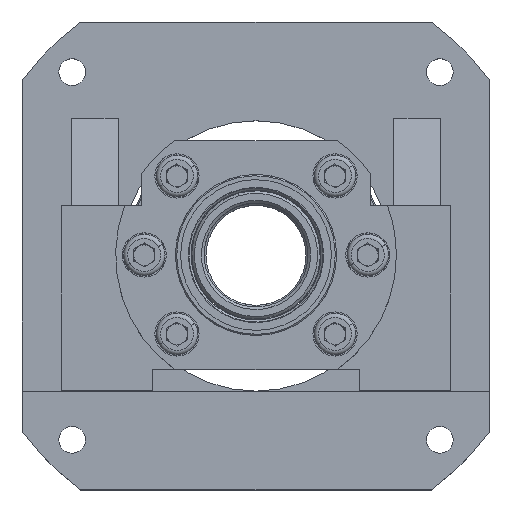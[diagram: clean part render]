
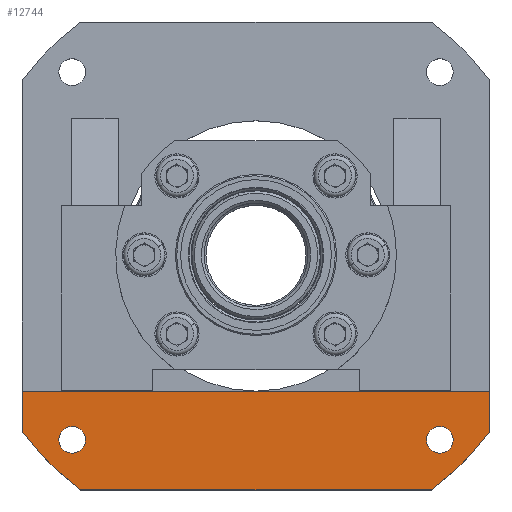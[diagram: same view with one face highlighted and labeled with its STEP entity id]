
A CAD part, top view. The second image highlights one B-rep face of the part: STEP entity #12744.
In plain terms, the highlighted planar face has unit normal (0, 0, 1).
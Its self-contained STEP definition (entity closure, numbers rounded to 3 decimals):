
#160 = DIRECTION ( 'NONE',  ( 0., 0., 1. ) ) ;
#776 = ORIENTED_EDGE ( 'NONE', *, *, #18640, .F. ) ;
#1193 = ORIENTED_EDGE ( 'NONE', *, *, #20778, .T. ) ;
#1268 = VERTEX_POINT ( 'NONE', #7747 ) ;
#1413 = DIRECTION ( 'NONE',  ( 1., 0., 0. ) ) ;
#1511 = VERTEX_POINT ( 'NONE', #14914 ) ;
#1585 = CARTESIAN_POINT ( 'NONE',  ( -70.711, -70.711, 21. ) ) ;
#1780 = VERTEX_POINT ( 'NONE', #15352 ) ;
#2019 = CARTESIAN_POINT ( 'NONE',  ( -90., 90., 21. ) ) ;
#2840 = EDGE_CURVE ( 'NONE', #23515, #27535, #10964, .T. ) ;
#2872 = DIRECTION ( 'NONE',  ( 1., 0., 0. ) ) ;
#3645 = CIRCLE ( 'NONE', #15464, 5.15 ) ;
#3664 = CARTESIAN_POINT ( 'NONE',  ( -91.047, -52.01, 21. ) ) ;
#3709 = DIRECTION ( 'NONE',  ( 1., 0., 0. ) ) ;
#4087 = VERTEX_POINT ( 'NONE', #21206 ) ;
#4648 = CARTESIAN_POINT ( 'NONE',  ( 67.5, -90., 21. ) ) ;
#4736 = DIRECTION ( 'NONE',  ( 0., 1., 0. ) ) ;
#4934 = LINE ( 'NONE', #19765, #27685 ) ;
#5015 = ORIENTED_EDGE ( 'NONE', *, *, #15531, .T. ) ;
#5020 = AXIS2_PLACEMENT_3D ( 'NONE', #27003, #14223, #1413 ) ;
#5147 = VERTEX_POINT ( 'NONE', #10131 ) ;
#5244 = VECTOR ( 'NONE', #14830, 1000. ) ;
#6014 = ORIENTED_EDGE ( 'NONE', *, *, #21037, .F. ) ;
#6857 = ORIENTED_EDGE ( 'NONE', *, *, #13227, .F. ) ;
#6898 = CARTESIAN_POINT ( 'NONE',  ( 90., -67.5, 21. ) ) ;
#6931 = EDGE_CURVE ( 'NONE', #1780, #1268, #27317, .T. ) ;
#7747 = CARTESIAN_POINT ( 'NONE',  ( -90., -67.5, 21. ) ) ;
#8013 = CARTESIAN_POINT ( 'NONE',  ( 0., 0., 21. ) ) ;
#8469 = EDGE_LOOP ( 'NONE', ( #776, #11500, #20401, #1193, #17170, #5015 ) ) ;
#8770 = CIRCLE ( 'NONE', #9636, 5.15 ) ;
#9337 = CARTESIAN_POINT ( 'NONE',  ( -67.5, -90., 21. ) ) ;
#9636 = AXIS2_PLACEMENT_3D ( 'NONE', #1585, #16566, #3709 ) ;
#10131 = CARTESIAN_POINT ( 'NONE',  ( -75.861, -70.711, 21. ) ) ;
#10171 = DIRECTION ( 'NONE',  ( 1., 0., 0. ) ) ;
#10521 = EDGE_LOOP ( 'NONE', ( #19915, #17572 ) ) ;
#10964 = CIRCLE ( 'NONE', #24712, 112.5 ) ;
#11063 = VERTEX_POINT ( 'NONE', #17223 ) ;
#11500 = ORIENTED_EDGE ( 'NONE', *, *, #6931, .T. ) ;
#12570 = CARTESIAN_POINT ( 'NONE',  ( 0., 0., 21. ) ) ;
#12672 = DIRECTION ( 'NONE',  ( 0., 0., 1. ) ) ;
#12744 = ADVANCED_FACE ( 'NONE', ( #25414, #19777, #20450 ), #19659, .T. ) ;
#12951 = CARTESIAN_POINT ( 'NONE',  ( 70.711, -70.711, 21. ) ) ;
#13017 = CIRCLE ( 'NONE', #24058, 5.15 ) ;
#13227 = EDGE_CURVE ( 'NONE', #1511, #5147, #3645, .T. ) ;
#13433 = EDGE_CURVE ( 'NONE', #4087, #11063, #13017, .T. ) ;
#13523 = CARTESIAN_POINT ( 'NONE',  ( -104.626, -112., 21. ) ) ;
#13887 = VERTEX_POINT ( 'NONE', #25040 ) ;
#14223 = DIRECTION ( 'NONE',  ( 0., 0., 1. ) ) ;
#14741 = DIRECTION ( 'NONE',  ( 1., 0., 0. ) ) ;
#14830 = DIRECTION ( 'NONE',  ( 0., -1., 0. ) ) ;
#14914 = CARTESIAN_POINT ( 'NONE',  ( -65.561, -70.711, 21. ) ) ;
#15114 = DIRECTION ( 'NONE',  ( 1., 0., 0. ) ) ;
#15352 = CARTESIAN_POINT ( 'NONE',  ( -90., -52.01, 21. ) ) ;
#15464 = AXIS2_PLACEMENT_3D ( 'NONE', #25489, #12672, #27627 ) ;
#15531 = EDGE_CURVE ( 'NONE', #27535, #13887, #4934, .T. ) ;
#15687 = DIRECTION ( 'NONE',  ( 0., 0., 1. ) ) ;
#16534 = VECTOR ( 'NONE', #22542, 1000. ) ;
#16566 = DIRECTION ( 'NONE',  ( 0., 0., 1. ) ) ;
#16927 = AXIS2_PLACEMENT_3D ( 'NONE', #12570, #27520, #14741 ) ;
#17170 = ORIENTED_EDGE ( 'NONE', *, *, #2840, .T. ) ;
#17223 = CARTESIAN_POINT ( 'NONE',  ( 65.561, -70.711, 21. ) ) ;
#17572 = ORIENTED_EDGE ( 'NONE', *, *, #13433, .F. ) ;
#18525 = EDGE_LOOP ( 'NONE', ( #6014, #6857 ) ) ;
#18640 = EDGE_CURVE ( 'NONE', #1780, #13887, #22311, .T. ) ;
#18698 = DIRECTION ( 'NONE',  ( 1., 0., 0. ) ) ;
#19485 = CIRCLE ( 'NONE', #5020, 5.15 ) ;
#19659 = PLANE ( 'NONE',  #21749 ) ;
#19765 = CARTESIAN_POINT ( 'NONE',  ( 90., 90., 21. ) ) ;
#19777 = FACE_BOUND ( 'NONE', #10521, .T. ) ;
#19915 = ORIENTED_EDGE ( 'NONE', *, *, #24544, .F. ) ;
#20401 = ORIENTED_EDGE ( 'NONE', *, *, #25947, .T. ) ;
#20422 = CARTESIAN_POINT ( 'NONE',  ( -90., -90., 21. ) ) ;
#20450 = FACE_BOUND ( 'NONE', #18525, .T. ) ;
#20778 = EDGE_CURVE ( 'NONE', #22572, #23515, #23558, .T. ) ;
#21037 = EDGE_CURVE ( 'NONE', #5147, #1511, #8770, .T. ) ;
#21206 = CARTESIAN_POINT ( 'NONE',  ( 75.861, -70.711, 21. ) ) ;
#21749 = AXIS2_PLACEMENT_3D ( 'NONE', #13523, #15687, #2872 ) ;
#22311 = LINE ( 'NONE', #3664, #22970 ) ;
#22423 = CIRCLE ( 'NONE', #16927, 112.5 ) ;
#22542 = DIRECTION ( 'NONE',  ( 1., 0., 0. ) ) ;
#22572 = VERTEX_POINT ( 'NONE', #9337 ) ;
#22970 = VECTOR ( 'NONE', #18698, 1000. ) ;
#23019 = DIRECTION ( 'NONE',  ( 0., 0., 1. ) ) ;
#23515 = VERTEX_POINT ( 'NONE', #4648 ) ;
#23558 = LINE ( 'NONE', #20422, #16534 ) ;
#24058 = AXIS2_PLACEMENT_3D ( 'NONE', #12951, #160, #15114 ) ;
#24544 = EDGE_CURVE ( 'NONE', #11063, #4087, #19485, .T. ) ;
#24712 = AXIS2_PLACEMENT_3D ( 'NONE', #8013, #23019, #10171 ) ;
#25040 = CARTESIAN_POINT ( 'NONE',  ( 90., -52.01, 21. ) ) ;
#25414 = FACE_OUTER_BOUND ( 'NONE', #8469, .T. ) ;
#25489 = CARTESIAN_POINT ( 'NONE',  ( -70.711, -70.711, 21. ) ) ;
#25947 = EDGE_CURVE ( 'NONE', #1268, #22572, #22423, .T. ) ;
#27003 = CARTESIAN_POINT ( 'NONE',  ( 70.711, -70.711, 21. ) ) ;
#27317 = LINE ( 'NONE', #2019, #5244 ) ;
#27520 = DIRECTION ( 'NONE',  ( 0., 0., 1. ) ) ;
#27535 = VERTEX_POINT ( 'NONE', #6898 ) ;
#27627 = DIRECTION ( 'NONE',  ( 1., 0., 0. ) ) ;
#27685 = VECTOR ( 'NONE', #4736, 1000. ) ;
